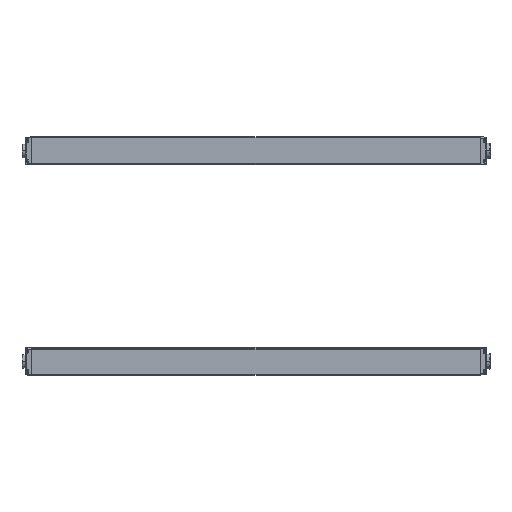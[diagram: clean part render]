
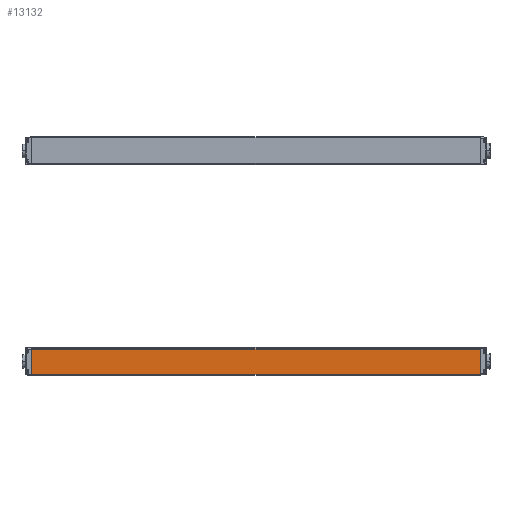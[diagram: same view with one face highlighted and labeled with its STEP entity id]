
A CAD part, left-side view. The second image highlights one B-rep face of the part: STEP entity #13132.
In plain terms, the highlighted planar face has unit normal (-1, 0, -0.009) as drawn and (1, 0, 0) by its records, which use the part's own axes.
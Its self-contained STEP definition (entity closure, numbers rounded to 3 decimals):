
#408 = VERTEX_POINT ( 'NONE', #7579 ) ;
#412 = CARTESIAN_POINT ( 'NONE',  ( 15., 0., 10.9 ) ) ;
#864 = CARTESIAN_POINT ( 'NONE',  ( 15., 490., 10.9 ) ) ;
#1837 = LINE ( 'NONE', #7410, #4882 ) ;
#2063 = DIRECTION ( 'NONE',  ( 0., 1., 0. ) ) ;
#2336 = VECTOR ( 'NONE', #6441, 1000. ) ;
#2719 = CARTESIAN_POINT ( 'NONE',  ( 15., 490., -16.9 ) ) ;
#3789 = VERTEX_POINT ( 'NONE', #4178 ) ;
#4178 = CARTESIAN_POINT ( 'NONE',  ( 15., 490., 10.9 ) ) ;
#4268 = AXIS2_PLACEMENT_3D ( 'NONE', #17891, #5434, #10982 ) ;
#4748 = VERTEX_POINT ( 'NONE', #14382 ) ;
#4882 = VECTOR ( 'NONE', #12956, 1000. ) ;
#5434 = DIRECTION ( 'NONE',  ( -1., 0., 0. ) ) ;
#5760 = ORIENTED_EDGE ( 'NONE', *, *, #10255, .F. ) ;
#6441 = DIRECTION ( 'NONE',  ( 0., -1., 0. ) ) ;
#6804 = FACE_OUTER_BOUND ( 'NONE', #9451, .T. ) ;
#7066 = EDGE_CURVE ( 'NONE', #3789, #10513, #9158, .T. ) ;
#7410 = CARTESIAN_POINT ( 'NONE',  ( 15., 0., -16.9 ) ) ;
#7579 = CARTESIAN_POINT ( 'NONE',  ( 15., 490., -16.693 ) ) ;
#8286 = DIRECTION ( 'NONE',  ( 0., 0., -1. ) ) ;
#8984 = LINE ( 'NONE', #14526, #10814 ) ;
#9158 = LINE ( 'NONE', #864, #2336 ) ;
#9451 = EDGE_LOOP ( 'NONE', ( #11042, #10214, #5760, #13197 ) ) ;
#10214 = ORIENTED_EDGE ( 'NONE', *, *, #10598, .T. ) ;
#10255 = EDGE_CURVE ( 'NONE', #3789, #408, #15191, .T. ) ;
#10513 = VERTEX_POINT ( 'NONE', #412 ) ;
#10598 = EDGE_CURVE ( 'NONE', #4748, #408, #8984, .T. ) ;
#10814 = VECTOR ( 'NONE', #2063, 1000. ) ;
#10982 = DIRECTION ( 'NONE',  ( 0., 0., 1. ) ) ;
#11042 = ORIENTED_EDGE ( 'NONE', *, *, #13770, .T. ) ;
#12344 = PLANE ( 'NONE',  #4268 ) ;
#12838 = VECTOR ( 'NONE', #8286, 1000. ) ;
#12956 = DIRECTION ( 'NONE',  ( 0., 0., -1. ) ) ;
#13132 = ADVANCED_FACE ( 'NONE', ( #6804 ), #12344, .F. ) ;
#13197 = ORIENTED_EDGE ( 'NONE', *, *, #7066, .T. ) ;
#13770 = EDGE_CURVE ( 'NONE', #10513, #4748, #1837, .T. ) ;
#14382 = CARTESIAN_POINT ( 'NONE',  ( 15., 0., -16.693 ) ) ;
#14526 = CARTESIAN_POINT ( 'NONE',  ( 15., 490., -16.693 ) ) ;
#15191 = LINE ( 'NONE', #2719, #12838 ) ;
#17891 = CARTESIAN_POINT ( 'NONE',  ( 15., 490., -16.9 ) ) ;
